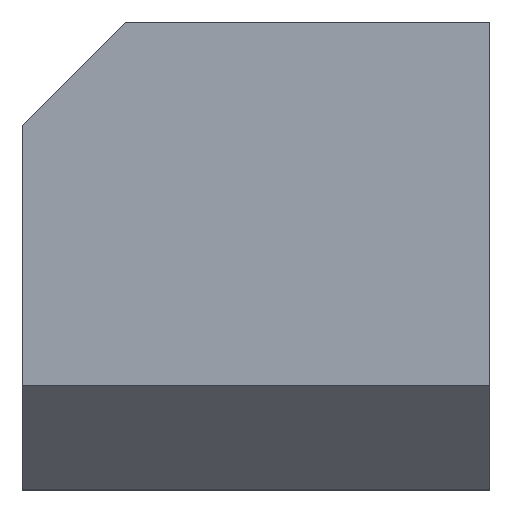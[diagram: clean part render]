
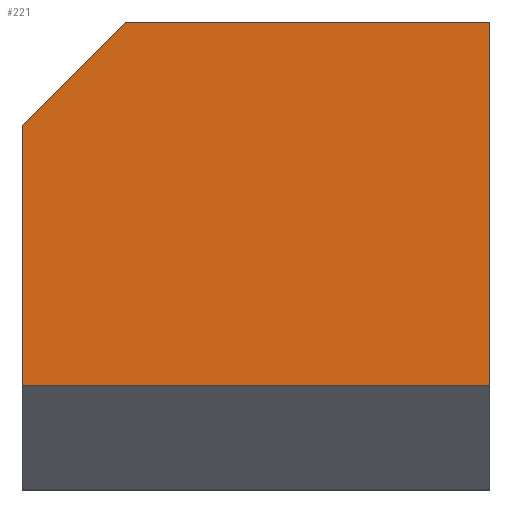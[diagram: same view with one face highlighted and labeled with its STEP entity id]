
A CAD part, top view. The second image highlights one B-rep face of the part: STEP entity #221.
In plain terms, the highlighted planar face has unit normal (0, 0, 1).
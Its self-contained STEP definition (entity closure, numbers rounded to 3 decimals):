
#21 = EDGE_CURVE('',#22,#24,#26,.T.);
#22 = VERTEX_POINT('',#23);
#23 = CARTESIAN_POINT('',(-20.,-11.088,20.));
#24 = VERTEX_POINT('',#25);
#25 = CARTESIAN_POINT('',(-20.,11.172,20.));
#26 = SURFACE_CURVE('',#27,(#31,#43),.PCURVE_S1.);
#27 = LINE('',#28,#29);
#28 = CARTESIAN_POINT('',(-20.,-20.,20.));
#29 = VECTOR('',#30,1.);
#30 = DIRECTION('',(-0.,1.,0.));
#31 = PCURVE('',#32,#37);
#32 = PLANE('',#33);
#33 = AXIS2_PLACEMENT_3D('',#34,#35,#36);
#34 = CARTESIAN_POINT('',(-20.,-20.,-20.));
#35 = DIRECTION('',(1.,0.,-0.));
#36 = DIRECTION('',(0.,0.,1.));
#37 = DEFINITIONAL_REPRESENTATION('',(#38),#42);
#38 = LINE('',#39,#40);
#39 = CARTESIAN_POINT('',(40.,0.));
#40 = VECTOR('',#41,1.);
#41 = DIRECTION('',(0.,-1.));
#42 = ( GEOMETRIC_REPRESENTATION_CONTEXT(2) 
PARAMETRIC_REPRESENTATION_CONTEXT() REPRESENTATION_CONTEXT('2D SPACE',''
  ) );
#43 = PCURVE('',#44,#49);
#44 = PLANE('',#45);
#45 = AXIS2_PLACEMENT_3D('',#46,#47,#48);
#46 = CARTESIAN_POINT('',(-20.,-20.,20.));
#47 = DIRECTION('',(0.,0.,1.));
#48 = DIRECTION('',(1.,0.,-0.));
#49 = DEFINITIONAL_REPRESENTATION('',(#50),#54);
#50 = LINE('',#51,#52);
#51 = CARTESIAN_POINT('',(0.,0.));
#52 = VECTOR('',#53,1.);
#53 = DIRECTION('',(0.,1.));
#54 = ( GEOMETRIC_REPRESENTATION_CONTEXT(2) 
PARAMETRIC_REPRESENTATION_CONTEXT() REPRESENTATION_CONTEXT('2D SPACE',''
  ) );
#72 = PLANE('',#73);
#73 = AXIS2_PLACEMENT_3D('',#74,#75,#76);
#74 = CARTESIAN_POINT('',(-20.,-15.544,
    15.544));
#75 = DIRECTION('',(0.,0.707,-0.707));
#76 = DIRECTION('',(-1.,0.,0.));
#210 = PLANE('',#211);
#211 = AXIS2_PLACEMENT_3D('',#212,#213,#214);
#212 = CARTESIAN_POINT('',(-15.586,15.586,
    -8.953));
#213 = DIRECTION('',(0.707,-0.707,0.));
#214 = DIRECTION('',(0.,-0.,-1.));
#221 = ADVANCED_FACE('',(#222),#44,.T.);
#222 = FACE_BOUND('',#223,.T.);
#223 = EDGE_LOOP('',(#224,#225,#248,#276,#304));
#224 = ORIENTED_EDGE('',*,*,#21,.F.);
#225 = ORIENTED_EDGE('',*,*,#226,.T.);
#226 = EDGE_CURVE('',#22,#227,#229,.T.);
#227 = VERTEX_POINT('',#228);
#228 = CARTESIAN_POINT('',(20.,-11.088,20.));
#229 = SURFACE_CURVE('',#230,(#234,#241),.PCURVE_S1.);
#230 = LINE('',#231,#232);
#231 = CARTESIAN_POINT('',(-20.,-11.088,20.));
#232 = VECTOR('',#233,1.);
#233 = DIRECTION('',(1.,0.,-0.));
#234 = PCURVE('',#44,#235);
#235 = DEFINITIONAL_REPRESENTATION('',(#236),#240);
#236 = LINE('',#237,#238);
#237 = CARTESIAN_POINT('',(0.,8.912));
#238 = VECTOR('',#239,1.);
#239 = DIRECTION('',(1.,0.));
#240 = ( GEOMETRIC_REPRESENTATION_CONTEXT(2) 
PARAMETRIC_REPRESENTATION_CONTEXT() REPRESENTATION_CONTEXT('2D SPACE',''
  ) );
#241 = PCURVE('',#72,#242);
#242 = DEFINITIONAL_REPRESENTATION('',(#243),#247);
#243 = LINE('',#244,#245);
#244 = CARTESIAN_POINT('',(0.,6.302));
#245 = VECTOR('',#246,1.);
#246 = DIRECTION('',(-1.,0.));
#247 = ( GEOMETRIC_REPRESENTATION_CONTEXT(2) 
PARAMETRIC_REPRESENTATION_CONTEXT() REPRESENTATION_CONTEXT('2D SPACE',''
  ) );
#248 = ORIENTED_EDGE('',*,*,#249,.T.);
#249 = EDGE_CURVE('',#227,#250,#252,.T.);
#250 = VERTEX_POINT('',#251);
#251 = CARTESIAN_POINT('',(20.,20.,20.));
#252 = SURFACE_CURVE('',#253,(#257,#264),.PCURVE_S1.);
#253 = LINE('',#254,#255);
#254 = CARTESIAN_POINT('',(20.,-20.,20.));
#255 = VECTOR('',#256,1.);
#256 = DIRECTION('',(0.,1.,0.));
#257 = PCURVE('',#44,#258);
#258 = DEFINITIONAL_REPRESENTATION('',(#259),#263);
#259 = LINE('',#260,#261);
#260 = CARTESIAN_POINT('',(40.,0.));
#261 = VECTOR('',#262,1.);
#262 = DIRECTION('',(0.,1.));
#263 = ( GEOMETRIC_REPRESENTATION_CONTEXT(2) 
PARAMETRIC_REPRESENTATION_CONTEXT() REPRESENTATION_CONTEXT('2D SPACE',''
  ) );
#264 = PCURVE('',#265,#270);
#265 = PLANE('',#266);
#266 = AXIS2_PLACEMENT_3D('',#267,#268,#269);
#267 = CARTESIAN_POINT('',(20.,-20.,-20.));
#268 = DIRECTION('',(1.,0.,-0.));
#269 = DIRECTION('',(0.,0.,1.));
#270 = DEFINITIONAL_REPRESENTATION('',(#271),#275);
#271 = LINE('',#272,#273);
#272 = CARTESIAN_POINT('',(40.,0.));
#273 = VECTOR('',#274,1.);
#274 = DIRECTION('',(0.,-1.));
#275 = ( GEOMETRIC_REPRESENTATION_CONTEXT(2) 
PARAMETRIC_REPRESENTATION_CONTEXT() REPRESENTATION_CONTEXT('2D SPACE',''
  ) );
#276 = ORIENTED_EDGE('',*,*,#277,.F.);
#277 = EDGE_CURVE('',#278,#250,#280,.T.);
#278 = VERTEX_POINT('',#279);
#279 = CARTESIAN_POINT('',(-11.172,20.,20.));
#280 = SURFACE_CURVE('',#281,(#285,#292),.PCURVE_S1.);
#281 = LINE('',#282,#283);
#282 = CARTESIAN_POINT('',(-20.,20.,20.));
#283 = VECTOR('',#284,1.);
#284 = DIRECTION('',(1.,0.,-0.));
#285 = PCURVE('',#44,#286);
#286 = DEFINITIONAL_REPRESENTATION('',(#287),#291);
#287 = LINE('',#288,#289);
#288 = CARTESIAN_POINT('',(0.,40.));
#289 = VECTOR('',#290,1.);
#290 = DIRECTION('',(1.,0.));
#291 = ( GEOMETRIC_REPRESENTATION_CONTEXT(2) 
PARAMETRIC_REPRESENTATION_CONTEXT() REPRESENTATION_CONTEXT('2D SPACE',''
  ) );
#292 = PCURVE('',#293,#298);
#293 = PLANE('',#294);
#294 = AXIS2_PLACEMENT_3D('',#295,#296,#297);
#295 = CARTESIAN_POINT('',(-20.,20.,
    -20.));
#296 = DIRECTION('',(-0.,1.,0.));
#297 = DIRECTION('',(0.,0.,1.));
#298 = DEFINITIONAL_REPRESENTATION('',(#299),#303);
#299 = LINE('',#300,#301);
#300 = CARTESIAN_POINT('',(40.,0.));
#301 = VECTOR('',#302,1.);
#302 = DIRECTION('',(0.,1.));
#303 = ( GEOMETRIC_REPRESENTATION_CONTEXT(2) 
PARAMETRIC_REPRESENTATION_CONTEXT() REPRESENTATION_CONTEXT('2D SPACE',''
  ) );
#304 = ORIENTED_EDGE('',*,*,#305,.F.);
#305 = EDGE_CURVE('',#24,#278,#306,.T.);
#306 = SURFACE_CURVE('',#307,(#311,#318),.PCURVE_S1.);
#307 = LINE('',#308,#309);
#308 = CARTESIAN_POINT('',(-25.586,5.586,20.));
#309 = VECTOR('',#310,1.);
#310 = DIRECTION('',(0.707,0.707,-0.));
#311 = PCURVE('',#44,#312);
#312 = DEFINITIONAL_REPRESENTATION('',(#313),#317);
#313 = LINE('',#314,#315);
#314 = CARTESIAN_POINT('',(-5.586,25.586));
#315 = VECTOR('',#316,1.);
#316 = DIRECTION('',(0.707,0.707));
#317 = ( GEOMETRIC_REPRESENTATION_CONTEXT(2) 
PARAMETRIC_REPRESENTATION_CONTEXT() REPRESENTATION_CONTEXT('2D SPACE',''
  ) );
#318 = PCURVE('',#210,#319);
#319 = DEFINITIONAL_REPRESENTATION('',(#320),#324);
#320 = LINE('',#321,#322);
#321 = CARTESIAN_POINT('',(-28.953,-14.142));
#322 = VECTOR('',#323,1.);
#323 = DIRECTION('',(0.,1.));
#324 = ( GEOMETRIC_REPRESENTATION_CONTEXT(2) 
PARAMETRIC_REPRESENTATION_CONTEXT() REPRESENTATION_CONTEXT('2D SPACE',''
  ) );
